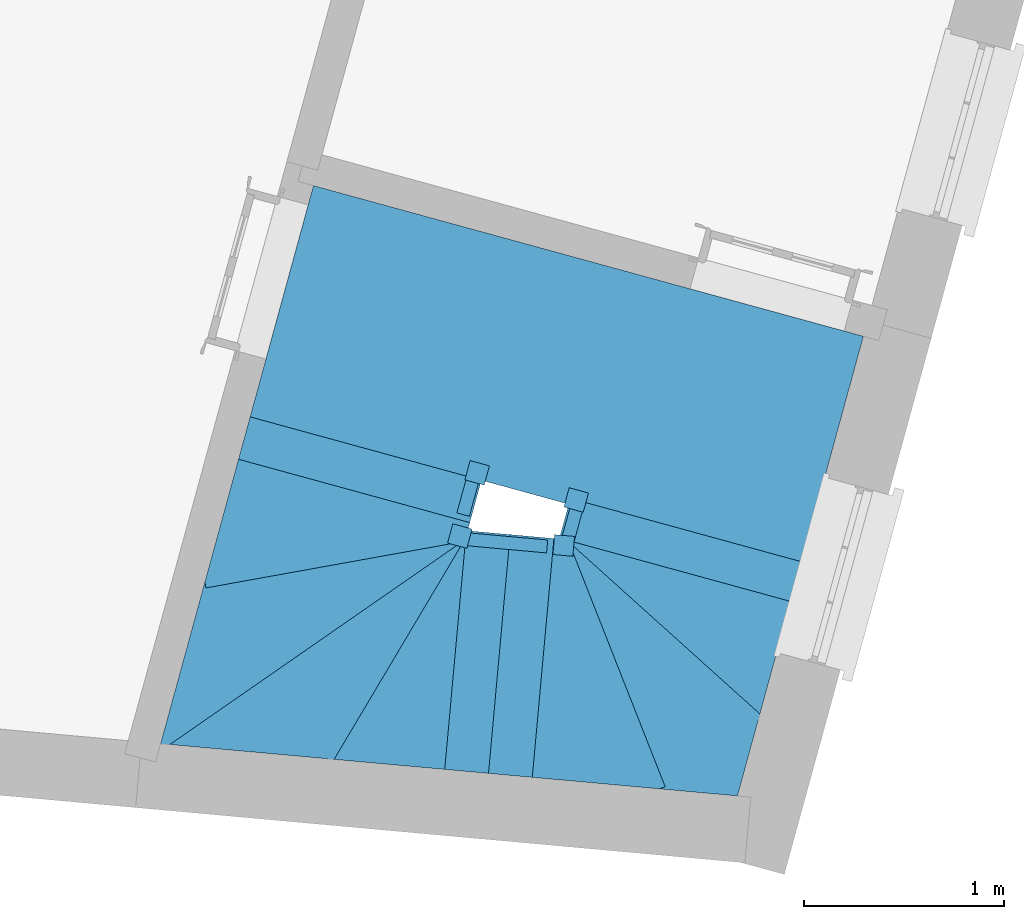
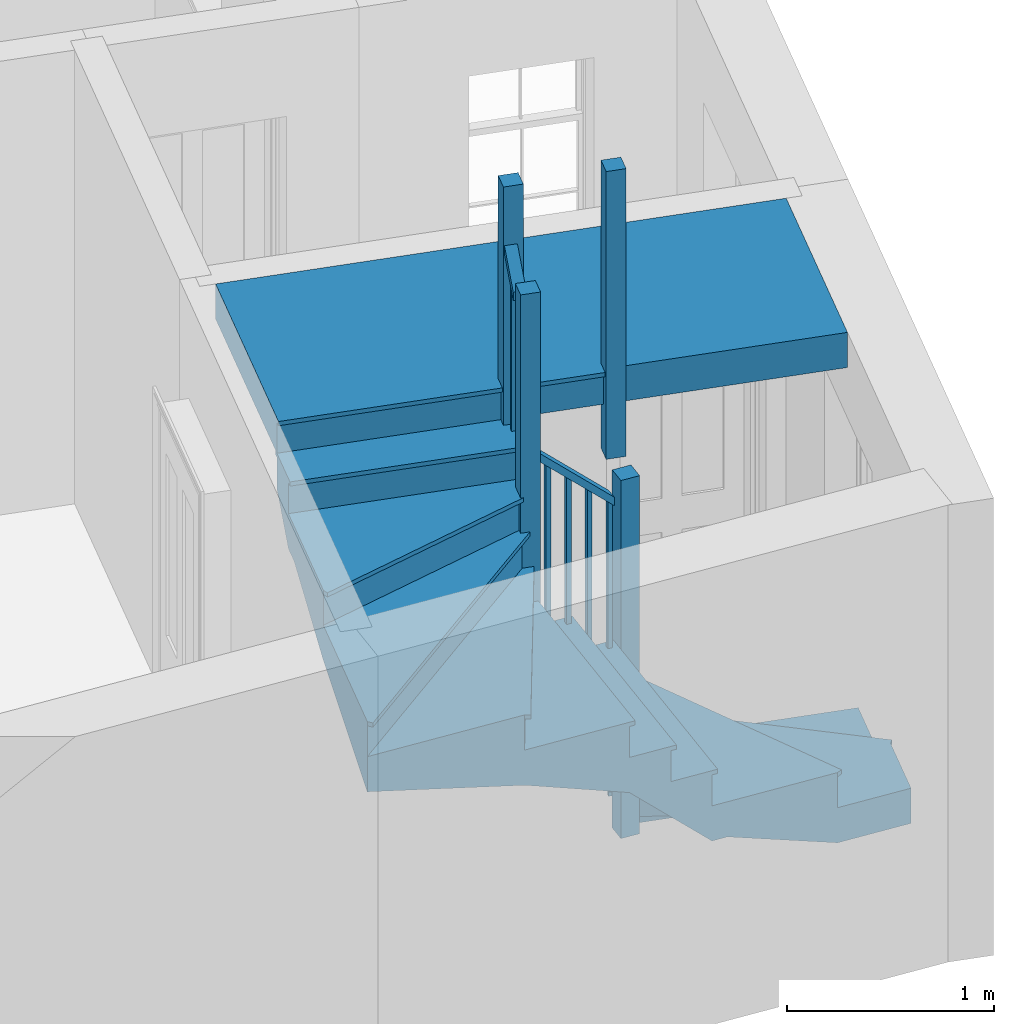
# One storey, part 4 of 4: 1 stair.
"""IFC4 building model written with IfcOpenShell, lengths in metres."""

from ifc_helpers import new_model, si_unit, frame, origin, origin_with_axes, place, context, subcontext, project, spatial, faceted_brep, element, save


model = new_model("IFC4")

# Units and contexts
model_context = context("Model", 3, world=origin_with_axes())
body_context = subcontext(model_context, "Body", "Model", "MODEL_VIEW")
ifc_project = project(units=[si_unit("PLANEANGLEUNIT", "RADIAN"), si_unit("MASSUNIT", "GRAM", prefix="KILO"), si_unit("FORCEUNIT", "NEWTON", prefix="KILO"), si_unit("LENGTHUNIT", "METRE"), si_unit("AREAUNIT", "SQUARE_METRE"), si_unit("VOLUMEUNIT", "CUBIC_METRE")], contexts=[model_context, model_context])

# Sites, building, storey
site_1_placement = place(None, origin_with_axes())
site_1 = spatial("IfcSite", under=ifc_project, at=site_1_placement, Name="Tamar")
site_2_placement = place(site_1_placement, origin_with_axes())
site_2 = spatial("IfcSite", under=site_1, at=site_2_placement, Name="Site plot-28", CompositionType="ELEMENT")
building_placement = place(None, origin_with_axes())
building = spatial("IfcBuilding", under=site_2, at=building_placement, Name="Building plot-28", CompositionType="ELEMENT")
storey_placement = place(None, frame((0.0, 0.0, 27.15), z_axis=(0.0, 0.0, 1.0), x_axis=(1.0, 0.0, 0.0)))
storey = spatial("IfcBuildingStorey", under=building, at=storey_placement, Name="plot-28 1", CompositionType="ELEMENT", Elevation=27.15)

# Stair
stair_placement = place(None, origin())
element("IfcStair", 1, at=stair_placement, inside=storey, Name="Stair", PredefinedType="NOTDEFINED", context=body_context, shape_type="Brep", body=[
    faceted_brep([(263.99859, 260.812635, 29.642308), (262.87018, 261.121813, 29.642308), (262.812044, 260.909634, 29.642308), (263.940454, 260.600455, 29.642308), (263.940454, 260.600455, 29.226923), (262.812044, 260.909634, 29.226923), (262.87018, 261.121813, 29.434615), (263.99859, 260.812635, 29.434615)], [[[0, 1, 2, 3]], [[4, 5, 6, 7]], [[7, 6, 1, 0]], [[1, 6, 5, 2]], [[5, 4, 3, 2]], [[3, 4, 7, 0]]]),
    faceted_brep([(262.812044, 260.909634, 29.617308), (262.804116, 260.8807, 29.617308), (262.812044, 260.909634, 29.642308), (262.878108, 261.150747, 29.617308), (262.87018, 261.121813, 29.617308), (262.87018, 261.121813, 29.642308), (262.804116, 260.8807, 29.642308), (262.878108, 261.150747, 29.642308), (263.96146, 260.563594, 29.642308), (263.940454, 260.600455, 29.642308), (263.940454, 260.600455, 29.617308), (263.96146, 260.563594, 29.617308), (264.035451, 260.83364, 29.642308), (263.99859, 260.812635, 29.642308), (263.99859, 260.812635, 29.617308), (264.035451, 260.83364, 29.617308)], [[[0, 1, 2]], [[3, 4, 5]], [[1, 6, 2]], [[7, 3, 5]], [[2, 6, 8, 9]], [[0, 2, 9, 10]], [[1, 0, 10, 11]], [[6, 1, 11, 8]], [[9, 8, 12, 13]], [[10, 9, 13, 14]], [[11, 10, 14, 15]], [[8, 11, 15, 12]], [[13, 12, 7, 5]], [[14, 13, 5, 4]], [[15, 14, 4, 3]], [[12, 15, 3, 7]]]),
    faceted_brep([(263.940454, 260.600455, 30.542308), (263.94706, 260.624566, 30.542308), (263.922949, 260.631173, 30.542308), (263.916342, 260.607061, 30.542308), (263.916342, 260.607061, 29.642308), (263.922949, 260.631173, 29.642308), (263.94706, 260.624566, 29.642308), (263.940454, 260.600455, 29.642308)], [[[0, 1, 2, 3]], [[4, 5, 6, 7]], [[7, 6, 1, 0]], [[6, 5, 2, 1]], [[5, 4, 3, 2]], [[4, 7, 0, 3]]]),
    faceted_brep([(263.969522, 260.706545, 30.646154), (263.976128, 260.730656, 30.646154), (263.952017, 260.737262, 30.646154), (263.945411, 260.713151, 30.646154), (263.945411, 260.713151, 29.642308), (263.952017, 260.737262, 29.642308), (263.976128, 260.730656, 29.642308), (263.969522, 260.706545, 29.642308)], [[[0, 1, 2, 3]], [[4, 5, 6, 7]], [[7, 6, 1, 0]], [[6, 5, 2, 1]], [[5, 4, 3, 2]], [[4, 7, 0, 3]]]),
    faceted_brep([(263.897053, 260.612346, 30.492308), (263.959743, 260.59517, 30.492308), (263.959743, 260.59517, 30.542308), (263.897053, 260.612346, 30.542308), (264.017879, 260.807349, 30.7), (263.95519, 260.824526, 30.7), (263.95519, 260.824526, 30.75), (264.017879, 260.807349, 30.75)], [[[0, 1, 2, 3]], [[4, 5, 6, 7]], [[0, 5, 4, 1]], [[3, 2, 7, 6]], [[0, 3, 6, 5]], [[2, 1, 4, 7]]]),
    faceted_brep([(263.940454, 260.600455, 29.434615), (262.812044, 260.909634, 29.434615), (262.783509, 260.805488, 29.434615), (263.911918, 260.496309, 29.434615), (263.911918, 260.496309, 29.226923), (262.783509, 260.805488, 29.226923), (262.812044, 260.909634, 29.226923), (263.940454, 260.600455, 29.226923)], [[[0, 1, 2, 3]], [[4, 5, 6, 7]], [[7, 6, 1, 0]], [[6, 5, 2, 1]], [[5, 4, 3, 2]], [[4, 7, 0, 3]]]),
    faceted_brep([(263.911918, 260.496309, 29.409615), (263.940852, 260.488381, 29.409615), (263.911918, 260.496309, 29.434615), (263.969387, 260.592527, 29.409615), (263.940454, 260.600455, 29.409615), (263.940454, 260.600455, 29.434615), (263.940852, 260.488381, 29.434615), (263.969387, 260.592527, 29.434615)], [[[0, 1, 2]], [[3, 4, 5]], [[1, 6, 2]], [[7, 3, 5]], [[2, 6, 7, 5]], [[0, 2, 5, 4]], [[1, 0, 4, 3]], [[6, 1, 3, 7]]]),
    faceted_brep([(263.946928, 260.434873, 30.634615), (263.973354, 260.531319, 30.634615), (263.876908, 260.557744, 30.634615), (263.850483, 260.461299, 30.634615), (263.850483, 260.461299, 29.434615), (263.876908, 260.557744, 29.434615), (263.973354, 260.531319, 29.434615), (263.946928, 260.434873, 29.434615)], [[[0, 1, 2, 3]], [[4, 5, 6, 7]], [[7, 6, 1, 0]], [[6, 5, 2, 1]], [[5, 4, 3, 2]], [[4, 7, 0, 3]]]),
    faceted_brep([(262.783509, 260.805488, 29.434615), (262.635744, 260.266191, 29.434615), (263.911918, 260.496309, 29.434615), (263.911918, 260.496309, 29.019231), (262.635744, 260.266191, 29.019231), (262.783509, 260.805488, 29.226923)], [[[0, 1, 2]], [[3, 4, 5]], [[0, 5, 4, 1]], [[4, 3, 2, 1]], [[2, 3, 5, 0]]]),
    faceted_brep([(262.641068, 260.236668, 29.409615), (262.641068, 260.236668, 29.434615), (262.635744, 260.266191, 29.409615), (263.917242, 260.466785, 29.434615), (263.917242, 260.466785, 29.409615), (263.911918, 260.496309, 29.409615), (262.635744, 260.266191, 29.434615), (263.911918, 260.496309, 29.434615)], [[[0, 1, 2]], [[3, 4, 5]], [[2, 1, 6]], [[3, 5, 7]], [[6, 1, 3, 7]], [[2, 6, 7, 5]], [[0, 2, 5, 4]], [[1, 0, 4, 3]]]),
    faceted_brep([(262.635744, 260.266191, 29.226923), (262.414097, 259.457247, 29.226923), (263.911918, 260.496309, 29.226923), (263.911918, 260.496309, 28.811538), (262.414097, 259.457247, 28.811538), (262.635744, 260.266191, 29.019231)], [[[0, 1, 2]], [[3, 4, 5]], [[0, 5, 4, 1]], [[4, 3, 2, 1]], [[2, 3, 5, 0]]]),
    faceted_brep([(262.414097, 259.457247, 29.201923), (262.431197, 259.432598, 29.201923), (262.414097, 259.457247, 29.226923), (263.929018, 260.471659, 29.201923), (263.911918, 260.496309, 29.201923), (263.911918, 260.496309, 29.226923), (262.431197, 259.432598, 29.226923), (263.929018, 260.471659, 29.226923)], [[[0, 1, 2]], [[3, 4, 5]], [[1, 6, 2]], [[7, 3, 5]], [[2, 6, 7, 5]], [[0, 2, 5, 4]], [[1, 0, 4, 3]], [[6, 1, 3, 7]]]),
    faceted_brep([(262.414097, 259.457247, 29.019231), (263.249434, 259.381549, 29.019231), (263.911918, 260.496309, 29.019231), (263.911918, 260.496309, 28.603846), (263.249434, 259.381549, 28.603846), (262.414097, 259.457247, 28.811538)], [[[0, 1, 2]], [[3, 4, 5]], [[0, 5, 4, 1]], [[4, 3, 2, 1]], [[2, 3, 5, 0]]]),
    faceted_brep([(263.275224, 259.366223, 28.994231), (263.275224, 259.366223, 29.019231), (263.249434, 259.381549, 28.994231), (263.937708, 260.480982, 29.019231), (263.937708, 260.480982, 28.994231), (263.911918, 260.496309, 28.994231), (263.249434, 259.381549, 29.019231), (263.911918, 260.496309, 29.019231)], [[[0, 1, 2]], [[3, 4, 5]], [[2, 1, 6]], [[3, 5, 7]], [[6, 1, 3, 7]], [[2, 6, 7, 5]], [[0, 2, 5, 4]], [[1, 0, 4, 3]]]),
    faceted_brep([(263.249434, 259.381549, 28.811538), (263.806326, 259.331083, 28.811538), (263.911918, 260.496309, 28.811538), (263.911918, 260.496309, 28.396154), (263.806326, 259.331083, 28.396154), (263.249434, 259.381549, 28.603846)], [[[0, 1, 2]], [[3, 4, 5]], [[0, 5, 4, 1]], [[4, 3, 2, 1]], [[2, 3, 5, 0]]]),
    faceted_brep([(263.806326, 259.331083, 28.786538), (263.836203, 259.328376, 28.786538), (263.806326, 259.331083, 28.811538), (263.941796, 260.493601, 28.786538), (263.911918, 260.496309, 28.786538), (263.911918, 260.496309, 28.811538), (263.836203, 259.328376, 28.811538), (263.941796, 260.493601, 28.811538)], [[[0, 1, 2]], [[3, 4, 5]], [[1, 6, 2]], [[7, 3, 5]], [[2, 6, 7, 5]], [[0, 2, 5, 4]], [[1, 0, 4, 3]], [[6, 1, 3, 7]]]),
    faceted_brep([(263.946928, 260.434873, 29.434615), (263.973354, 260.531319, 29.434615), (263.876908, 260.557744, 29.434615), (263.850483, 260.461299, 29.434615), (263.850483, 260.461299, 28.311538), (263.876908, 260.557744, 28.311538), (263.973354, 260.531319, 28.311538), (263.946928, 260.434873, 28.311538)], [[[0, 1, 2, 3]], [[4, 5, 6, 7]], [[7, 6, 1, 0]], [[6, 5, 2, 1]], [[5, 4, 3, 2]], [[4, 7, 0, 3]]]),
    faceted_brep([(263.911918, 260.496309, 28.603846), (263.806326, 259.331083, 28.603846), (264.025428, 259.311228, 28.603846), (264.13102, 260.476454, 28.603846), (264.13102, 260.476454, 28.188462), (264.025428, 259.311228, 28.188462), (263.806326, 259.331083, 28.396154), (263.911918, 260.496309, 28.396154)], [[[0, 1, 2, 3]], [[4, 5, 6, 7]], [[7, 6, 1, 0]], [[1, 6, 5, 2]], [[5, 4, 3, 2]], [[3, 4, 7, 0]]]),
    faceted_brep([(264.055305, 259.308521, 28.578846), (264.055305, 259.308521, 28.603846), (264.025428, 259.311228, 28.578846), (263.776448, 259.333791, 28.603846), (263.776448, 259.333791, 28.578846), (263.806326, 259.331083, 28.578846), (264.025428, 259.311228, 28.603846), (263.806326, 259.331083, 28.603846), (264.163606, 260.503624, 28.603846), (264.13102, 260.476454, 28.603846), (264.13102, 260.476454, 28.578846), (264.163606, 260.503624, 28.578846), (263.884748, 260.528894, 28.603846), (263.911918, 260.496309, 28.603846), (263.911918, 260.496309, 28.578846), (263.884748, 260.528894, 28.578846)], [[[0, 1, 2]], [[3, 4, 5]], [[2, 1, 6]], [[3, 5, 7]], [[6, 1, 8, 9]], [[2, 6, 9, 10]], [[0, 2, 10, 11]], [[1, 0, 11, 8]], [[9, 8, 12, 13]], [[10, 9, 13, 14]], [[11, 10, 14, 15]], [[8, 11, 15, 12]], [[13, 12, 3, 7]], [[14, 13, 7, 5]], [[15, 14, 5, 4]], [[12, 15, 4, 3]]]),
    faceted_brep([(264.13102, 260.476454, 29.503846), (264.106123, 260.47871, 29.503846), (264.103866, 260.453812, 29.503846), (264.128764, 260.451556, 29.503846), (264.128764, 260.451556, 28.603846), (264.103866, 260.453812, 28.603846), (264.106123, 260.47871, 28.603846), (264.13102, 260.476454, 28.603846)], [[[0, 1, 2, 3]], [[4, 5, 6, 7]], [[7, 6, 1, 0]], [[6, 5, 2, 1]], [[5, 4, 3, 2]], [[4, 7, 0, 3]]]),
    faceted_brep([(264.021469, 260.486381, 29.607692), (263.996571, 260.488638, 29.607692), (263.994315, 260.46374, 29.607692), (264.019213, 260.461483, 29.607692), (264.019213, 260.461483, 28.603846), (263.994315, 260.46374, 28.603846), (263.996571, 260.488638, 28.603846), (264.021469, 260.486381, 28.603846)], [[[0, 1, 2, 3]], [[4, 5, 6, 7]], [[7, 6, 1, 0]], [[6, 5, 2, 1]], [[5, 4, 3, 2]], [[4, 7, 0, 3]]]),
    faceted_brep([(264.126959, 260.431637, 29.453846), (264.132825, 260.496372, 29.453846), (264.132825, 260.496372, 29.503846), (264.126959, 260.431637, 29.503846), (263.913723, 260.516227, 29.661538), (263.907857, 260.451492, 29.661538), (263.907857, 260.451492, 29.711538), (263.913723, 260.516227, 29.711538)], [[[0, 1, 2, 3]], [[4, 5, 6, 7]], [[0, 5, 4, 1]], [[3, 2, 7, 6]], [[0, 3, 6, 5]], [[2, 1, 4, 7]]]),
    faceted_brep([(264.13102, 260.476454, 28.396154), (264.025428, 259.311228, 28.396154), (264.24453, 259.291373, 28.396154), (264.350123, 260.456599, 28.396154), (264.350123, 260.456599, 27.980769), (264.24453, 259.291373, 27.980769), (264.025428, 259.311228, 28.188462), (264.13102, 260.476454, 28.188462)], [[[0, 1, 2, 3]], [[4, 5, 6, 7]], [[7, 6, 1, 0]], [[1, 6, 5, 2]], [[5, 4, 3, 2]], [[3, 4, 7, 0]]]),
    faceted_brep([(264.24453, 259.291373, 28.371154), (264.274408, 259.288666, 28.371154), (264.24453, 259.291373, 28.396154), (263.99555, 259.313936, 28.371154), (264.025428, 259.311228, 28.371154), (264.025428, 259.311228, 28.396154), (264.274408, 259.288666, 28.396154), (263.99555, 259.313936, 28.396154), (264.382708, 260.483769, 28.396154), (264.350123, 260.456599, 28.396154), (264.350123, 260.456599, 28.371154), (264.382708, 260.483769, 28.371154), (264.10385, 260.509039, 28.396154), (264.13102, 260.476454, 28.396154), (264.13102, 260.476454, 28.371154), (264.10385, 260.509039, 28.371154)], [[[0, 1, 2]], [[3, 4, 5]], [[1, 6, 2]], [[7, 3, 5]], [[2, 6, 8, 9]], [[0, 2, 9, 10]], [[1, 0, 10, 11]], [[6, 1, 11, 8]], [[9, 8, 12, 13]], [[10, 9, 13, 14]], [[11, 10, 14, 15]], [[8, 11, 15, 12]], [[13, 12, 7, 5]], [[14, 13, 5, 4]], [[15, 14, 4, 3]], [[12, 15, 3, 7]]]),
    faceted_brep([(264.350123, 260.456599, 29.296154), (264.325225, 260.458855, 29.296154), (264.322968, 260.433957, 29.296154), (264.347866, 260.431701, 29.296154), (264.347866, 260.431701, 28.396154), (264.322968, 260.433957, 28.396154), (264.325225, 260.458855, 28.396154), (264.350123, 260.456599, 28.396154)], [[[0, 1, 2, 3]], [[4, 5, 6, 7]], [[7, 6, 1, 0]], [[6, 5, 2, 1]], [[5, 4, 3, 2]], [[4, 7, 0, 3]]]),
    faceted_brep([(264.240572, 260.466526, 29.4), (264.215674, 260.468783, 29.4), (264.213417, 260.443885, 29.4), (264.238315, 260.441628, 29.4), (264.238315, 260.441628, 28.396154), (264.213417, 260.443885, 28.396154), (264.215674, 260.468783, 28.396154), (264.240572, 260.466526, 28.396154)], [[[0, 1, 2, 3]], [[4, 5, 6, 7]], [[7, 6, 1, 0]], [[6, 5, 2, 1]], [[5, 4, 3, 2]], [[4, 7, 0, 3]]]),
    faceted_brep([(264.346061, 260.411782, 29.246154), (264.351928, 260.476517, 29.246154), (264.351928, 260.476517, 29.296154), (264.346061, 260.411782, 29.296154), (264.132825, 260.496372, 29.453846), (264.126959, 260.431637, 29.453846), (264.126959, 260.431637, 29.503846), (264.132825, 260.496372, 29.503846)], [[[0, 1, 2, 3]], [[4, 5, 6, 7]], [[0, 5, 4, 1]], [[3, 2, 7, 6]], [[0, 3, 6, 5]], [[2, 1, 4, 7]]]),
    faceted_brep([(264.350123, 260.456599, 28.188462), (264.24453, 259.291373, 28.188462), (264.326329, 259.283961, 28.188462), (264.431922, 260.449186, 28.188462), (264.431922, 260.449186, 27.980769), (264.326329, 259.283961, 27.980769), (264.24453, 259.291373, 27.980769), (264.350123, 260.456599, 27.980769)], [[[0, 1, 2, 3]], [[4, 5, 6, 7]], [[7, 6, 1, 0]], [[6, 5, 2, 1]], [[5, 4, 3, 2]], [[4, 7, 0, 3]]]),
    faceted_brep([(264.431922, 260.449186, 28.163462), (264.434629, 260.479064, 28.163462), (264.431922, 260.449186, 28.188462), (264.35283, 260.486476, 28.163462), (264.350123, 260.456599, 28.163462), (264.350123, 260.456599, 28.188462), (264.434629, 260.479064, 28.188462), (264.35283, 260.486476, 28.188462)], [[[0, 1, 2]], [[3, 4, 5]], [[1, 6, 2]], [[7, 3, 5]], [[2, 6, 7, 5]], [[0, 2, 5, 4]], [[1, 0, 4, 3]], [[6, 1, 3, 7]]]),
    faceted_brep([(264.48623, 260.49447, 29.388462), (264.386638, 260.503495, 29.388462), (264.377613, 260.403903, 29.388462), (264.477205, 260.394878, 29.388462), (264.477205, 260.394878, 28.188462), (264.377613, 260.403903, 28.188462), (264.386638, 260.503495, 28.188462), (264.48623, 260.49447, 28.188462)], [[[0, 1, 2, 3]], [[4, 5, 6, 7]], [[7, 6, 1, 0]], [[6, 5, 2, 1]], [[5, 4, 3, 2]], [[4, 7, 0, 3]]]),
    faceted_brep([(264.326329, 259.283961, 28.188462), (264.91147, 259.230935, 28.188462), (264.431922, 260.449186, 28.188462), (264.431922, 260.449186, 27.773077), (264.91147, 259.230935, 27.773077), (264.326329, 259.283961, 27.980769)], [[[0, 1, 2]], [[3, 4, 5]], [[0, 5, 4, 1]], [[4, 3, 2, 1]], [[2, 3, 5, 0]]]),
    faceted_brep([(264.939385, 259.241924, 28.163462), (264.939385, 259.241924, 28.188462), (264.91147, 259.230935, 28.163462), (264.459837, 260.460175, 28.188462), (264.459837, 260.460175, 28.163462), (264.431922, 260.449186, 28.163462), (264.91147, 259.230935, 28.188462), (264.431922, 260.449186, 28.188462)], [[[0, 1, 2]], [[3, 4, 5]], [[2, 1, 6]], [[3, 5, 7]], [[6, 1, 3, 7]], [[2, 6, 7, 5]], [[0, 2, 5, 4]], [[1, 0, 4, 3]]]),
    faceted_brep([(264.91147, 259.230935, 27.980769), (265.301564, 259.195585, 27.980769), (265.405071, 259.573354, 27.980769), (264.431922, 260.449186, 27.980769), (264.431922, 260.449186, 27.565385), (265.405071, 259.573354, 27.565385), (265.301564, 259.195585, 27.773077), (264.91147, 259.230935, 27.773077)], [[[0, 1, 2, 3]], [[4, 5, 6, 7]], [[7, 6, 1, 0]], [[1, 6, 5, 2]], [[5, 4, 3, 2]], [[3, 4, 7, 0]]]),
    faceted_brep([(265.405071, 259.573354, 27.955769), (265.42514, 259.595653, 27.955769), (265.405071, 259.573354, 27.980769), (264.451991, 260.471485, 27.955769), (264.431922, 260.449186, 27.955769), (264.431922, 260.449186, 27.980769), (265.42514, 259.595653, 27.980769), (264.451991, 260.471485, 27.980769)], [[[0, 1, 2]], [[3, 4, 5]], [[1, 6, 2]], [[7, 3, 5]], [[2, 6, 7, 5]], [[0, 2, 5, 4]], [[1, 0, 4, 3]], [[6, 1, 3, 7]]]),
    faceted_brep([(265.405071, 259.573354, 27.773077), (265.560331, 260.140007, 27.773077), (264.431922, 260.449186, 27.773077), (264.431922, 260.449186, 27.357692), (265.560331, 260.140007, 27.357692), (265.405071, 259.573354, 27.565385)], [[[0, 1, 2]], [[3, 4, 5]], [[0, 5, 4, 1]], [[4, 3, 2, 1]], [[2, 3, 5, 0]]]),
    faceted_brep([(265.560331, 260.140007, 27.748077), (265.568259, 260.168941, 27.748077), (265.560331, 260.140007, 27.773077), (264.439849, 260.47812, 27.748077), (264.431922, 260.449186, 27.748077), (264.431922, 260.449186, 27.773077), (265.568259, 260.168941, 27.773077), (264.439849, 260.47812, 27.773077)], [[[0, 1, 2]], [[3, 4, 5]], [[1, 6, 2]], [[7, 3, 5]], [[2, 6, 7, 5]], [[0, 2, 5, 4]], [[1, 0, 4, 3]], [[6, 1, 3, 7]]]),
    faceted_brep([(264.48623, 260.49447, 28.188462), (264.386638, 260.503495, 28.188462), (264.377613, 260.403903, 28.188462), (264.477205, 260.394878, 28.188462), (264.477205, 260.394878, 27.273077), (264.377613, 260.403903, 27.273077), (264.386638, 260.503495, 27.273077), (264.48623, 260.49447, 27.273077)], [[[0, 1, 2, 3]], [[4, 5, 6, 7]], [[7, 6, 1, 0]], [[6, 5, 2, 1]], [[5, 4, 3, 2]], [[4, 7, 0, 3]]]),
    faceted_brep([(264.431922, 260.449186, 27.565385), (265.560331, 260.140007, 27.565385), (265.618468, 260.352187, 27.565385), (264.490058, 260.661366, 27.565385), (264.490058, 260.661366, 27.15), (265.618468, 260.352187, 27.15), (265.560331, 260.140007, 27.357692), (264.431922, 260.449186, 27.357692)], [[[0, 1, 2, 3]], [[4, 5, 6, 7]], [[7, 6, 1, 0]], [[1, 6, 5, 2]], [[5, 4, 3, 2]], [[3, 4, 7, 0]]]),
    faceted_brep([(265.626395, 260.381121, 27.540385), (265.626395, 260.381121, 27.565385), (265.618468, 260.352187, 27.540385), (265.552404, 260.111074, 27.565385), (265.552404, 260.111074, 27.540385), (265.560331, 260.140007, 27.540385), (265.618468, 260.352187, 27.565385), (265.560331, 260.140007, 27.565385), (264.469052, 260.698227, 27.565385), (264.490058, 260.661366, 27.565385), (264.490058, 260.661366, 27.540385), (264.469052, 260.698227, 27.540385), (264.39506, 260.42818, 27.565385), (264.431922, 260.449186, 27.565385), (264.431922, 260.449186, 27.540385), (264.39506, 260.42818, 27.540385)], [[[0, 1, 2]], [[3, 4, 5]], [[2, 1, 6]], [[3, 5, 7]], [[6, 1, 8, 9]], [[2, 6, 9, 10]], [[0, 2, 10, 11]], [[1, 0, 11, 8]], [[9, 8, 12, 13]], [[10, 9, 13, 14]], [[11, 10, 14, 15]], [[8, 11, 15, 12]], [[13, 12, 3, 7]], [[14, 13, 7, 5]], [[15, 14, 5, 4]], [[12, 15, 4, 3]]]),
    faceted_brep([(264.490058, 260.661366, 28.465385), (264.483451, 260.637254, 28.465385), (264.507563, 260.630648, 28.465385), (264.514169, 260.654759, 28.465385), (264.514169, 260.654759, 27.565385), (264.507563, 260.630648, 27.565385), (264.483451, 260.637254, 27.565385), (264.490058, 260.661366, 27.565385)], [[[0, 1, 2, 3]], [[4, 5, 6, 7]], [[7, 6, 1, 0]], [[6, 5, 2, 1]], [[5, 4, 3, 2]], [[4, 7, 0, 3]]]),
    faceted_brep([(264.46099, 260.555276, 28.569231), (264.454383, 260.531165, 28.569231), (264.478495, 260.524558, 28.569231), (264.485101, 260.54867, 28.569231), (264.485101, 260.54867, 27.565385), (264.478495, 260.524558, 27.565385), (264.454383, 260.531165, 27.565385), (264.46099, 260.555276, 27.565385)], [[[0, 1, 2, 3]], [[4, 5, 6, 7]], [[7, 6, 1, 0]], [[6, 5, 2, 1]], [[5, 4, 3, 2]], [[4, 7, 0, 3]]]),
    faceted_brep([(264.533458, 260.649474, 28.415385), (264.470769, 260.666651, 28.415385), (264.470769, 260.666651, 28.465385), (264.533458, 260.649474, 28.465385), (264.412633, 260.454471, 28.623077), (264.475322, 260.437295, 28.623077), (264.475322, 260.437295, 28.673077), (264.412633, 260.454471, 28.673077)], [[[0, 1, 2, 3]], [[4, 5, 6, 7]], [[0, 5, 4, 1]], [[3, 2, 7, 6]], [[0, 3, 6, 5]], [[2, 1, 4, 7]]]),
    faceted_brep([(264.490058, 260.661366, 27.357692), (265.618468, 260.352187, 27.357692), (265.622701, 260.367636, 27.357692), (264.494291, 260.676815, 27.357692), (264.494291, 260.676815, 27.15), (265.622701, 260.367636, 27.15), (265.618468, 260.352187, 27.15), (264.490058, 260.661366, 27.15)], [[[0, 1, 2, 3]], [[4, 5, 6, 7]], [[7, 6, 1, 0]], [[6, 5, 2, 1]], [[5, 4, 3, 2]], [[4, 7, 0, 3]]]),
    faceted_brep([(264.494291, 260.676815, 27.332692), (264.465357, 260.684743, 27.332692), (264.494291, 260.676815, 27.357692), (264.461124, 260.669293, 27.332692), (264.490058, 260.661366, 27.332692), (264.490058, 260.661366, 27.357692), (264.465357, 260.684743, 27.357692), (264.461124, 260.669293, 27.357692)], [[[0, 1, 2]], [[3, 4, 5]], [[1, 6, 2]], [[7, 3, 5]], [[2, 6, 7, 5]], [[0, 2, 5, 4]], [[1, 0, 4, 3]], [[6, 1, 3, 7]]]),
    faceted_brep([(264.459281, 260.73825, 31.05), (264.432855, 260.641805, 31.05), (264.529301, 260.61538, 31.05), (264.555726, 260.711825, 31.05), (264.555726, 260.711825, 29.85), (264.529301, 260.61538, 29.85), (264.432855, 260.641805, 29.85), (264.459281, 260.73825, 29.85)], [[[0, 1, 2, 3]], [[4, 5, 6, 7]], [[7, 6, 1, 0]], [[6, 5, 2, 1]], [[5, 4, 3, 2]], [[4, 7, 0, 3]]]),
    faceted_brep([(264.494291, 260.676815, 29.85), (265.622701, 260.367636, 29.85), (265.931879, 261.496046, 29.85), (264.80347, 261.805225, 29.85), (264.80347, 261.805225, 29.642308), (265.931879, 261.496046, 29.642308), (265.622701, 260.367636, 29.642308), (264.494291, 260.676815, 29.642308)], [[[0, 1, 2, 3]], [[4, 5, 6, 7]], [[7, 6, 1, 0]], [[6, 5, 2, 1]], [[5, 4, 3, 2]], [[4, 7, 0, 3]]]),
    faceted_brep([(264.774536, 261.813152, 29.825), (264.774536, 261.813152, 29.85), (264.80347, 261.805225, 29.825), (264.465357, 260.684743, 29.85), (264.465357, 260.684743, 29.825), (264.494291, 260.676815, 29.825), (264.80347, 261.805225, 29.85), (264.494291, 260.676815, 29.85)], [[[0, 1, 2]], [[3, 4, 5]], [[2, 1, 6]], [[3, 5, 7]], [[6, 1, 3, 7]], [[2, 6, 7, 5]], [[0, 2, 5, 4]], [[1, 0, 4, 3]]]),
    faceted_brep([(264.459281, 260.73825, 29.85), (264.432855, 260.641805, 29.85), (264.529301, 260.61538, 29.85), (264.555726, 260.711825, 29.85), (264.555726, 260.711825, 29.35), (264.529301, 260.61538, 29.35), (264.432855, 260.641805, 29.35), (264.459281, 260.73825, 29.35)], [[[0, 1, 2, 3]], [[4, 5, 6, 7]], [[7, 6, 1, 0]], [[6, 5, 2, 1]], [[5, 4, 3, 2]], [[4, 7, 0, 3]]]),
    faceted_brep([(264.494291, 260.676815, 29.85), (264.80347, 261.805225, 29.85), (264.307769, 261.941044, 29.85), (263.99859, 260.812635, 29.85), (263.99859, 260.812635, 29.642308), (264.307769, 261.941044, 29.642308), (264.80347, 261.805225, 29.642308), (264.494291, 260.676815, 29.642308)], [[[0, 1, 2, 3]], [[4, 5, 6, 7]], [[7, 6, 1, 0]], [[6, 5, 2, 1]], [[5, 4, 3, 2]], [[4, 7, 0, 3]]]),
    faceted_brep([(263.99859, 260.812635, 29.825), (263.990662, 260.783701, 29.825), (263.99859, 260.812635, 29.85), (264.486363, 260.647881, 29.825), (264.494291, 260.676815, 29.825), (264.494291, 260.676815, 29.85), (263.990662, 260.783701, 29.85), (264.486363, 260.647881, 29.85)], [[[0, 1, 2]], [[3, 4, 5]], [[1, 6, 2]], [[7, 3, 5]], [[2, 6, 7, 5]], [[0, 2, 5, 4]], [[1, 0, 4, 3]], [[6, 1, 3, 7]]]),
    faceted_brep([(263.937155, 260.777625, 31.05), (264.0336, 260.751199, 31.05), (264.060025, 260.847644, 31.05), (263.96358, 260.87407, 31.05), (263.96358, 260.87407, 29.85), (264.060025, 260.847644, 29.85), (264.0336, 260.751199, 29.85), (263.937155, 260.777625, 29.85)], [[[0, 1, 2, 3]], [[4, 5, 6, 7]], [[7, 6, 1, 0]], [[6, 5, 2, 1]], [[5, 4, 3, 2]], [[4, 7, 0, 3]]]),
    faceted_brep([(263.99859, 260.812635, 29.85), (264.307769, 261.941044, 29.85), (263.179359, 262.250223, 29.85), (262.87018, 261.121813, 29.85), (262.87018, 261.121813, 29.642308), (263.179359, 262.250223, 29.642308), (264.307769, 261.941044, 29.642308), (263.99859, 260.812635, 29.642308)], [[[0, 1, 2, 3]], [[4, 5, 6, 7]], [[7, 6, 1, 0]], [[6, 5, 2, 1]], [[5, 4, 3, 2]], [[4, 7, 0, 3]]]),
    faceted_brep([(262.87018, 261.121813, 29.825), (262.862253, 261.09288, 29.825), (262.87018, 261.121813, 29.85), (263.990662, 260.783701, 29.825), (263.99859, 260.812635, 29.825), (263.99859, 260.812635, 29.85), (262.862253, 261.09288, 29.85), (263.990662, 260.783701, 29.85)], [[[0, 1, 2]], [[3, 4, 5]], [[1, 6, 2]], [[7, 3, 5]], [[2, 6, 7, 5]], [[0, 2, 5, 4]], [[1, 0, 4, 3]], [[6, 1, 3, 7]]]),
    faceted_brep([(263.937155, 260.777625, 29.85), (264.0336, 260.751199, 29.85), (264.060025, 260.847644, 29.85), (263.96358, 260.87407, 29.85), (263.96358, 260.87407, 29.35), (264.060025, 260.847644, 29.35), (264.0336, 260.751199, 29.35), (263.937155, 260.777625, 29.35)], [[[0, 1, 2, 3]], [[4, 5, 6, 7]], [[7, 6, 1, 0]], [[6, 5, 2, 1]], [[5, 4, 3, 2]], [[4, 7, 0, 3]]]),
])

save(model, "model.ifc")
